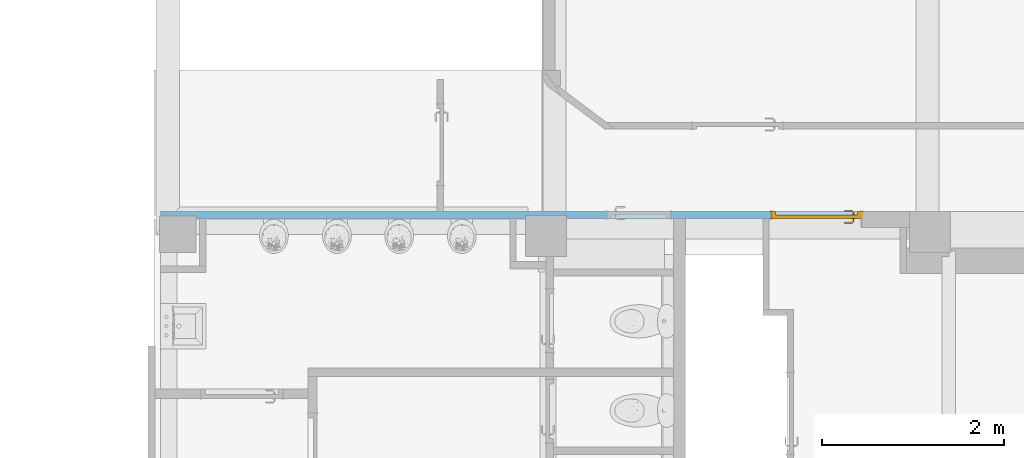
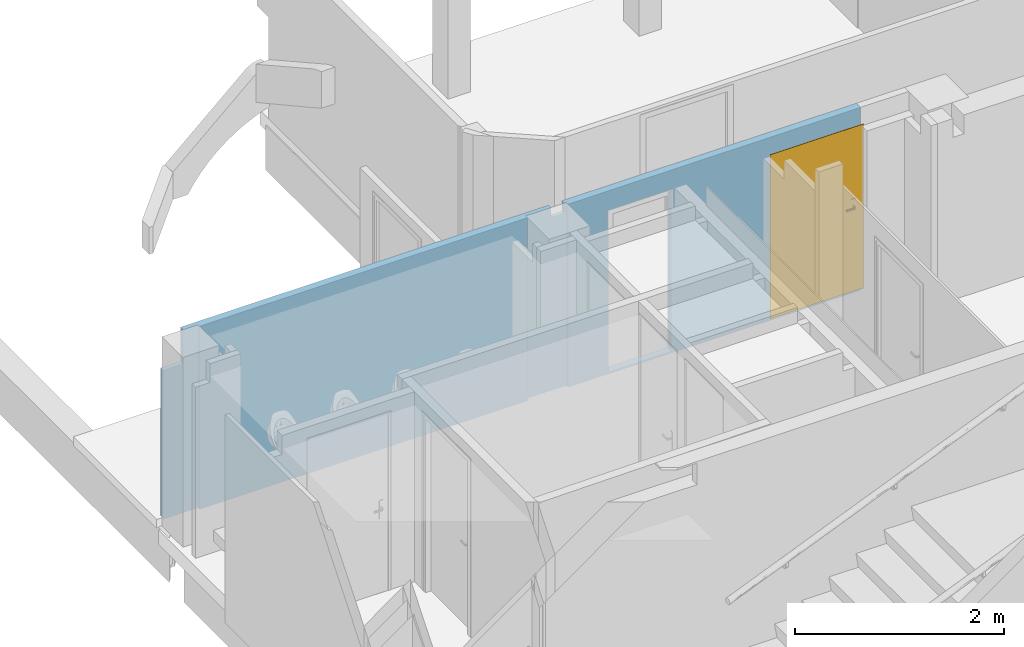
# One storey, part 18 of 32: 1 door, 2 openings, plus 1 element that does not belong to this part.
"""IFC4 building model written with IfcOpenShell, lengths in metres."""

from ifc_helpers import new_model, entity, si_unit, converted_unit, derived_unit, direction, frame, origin, place, context, subcontext, project, spatial, indexed_curve, outline, extrude, polygons, source, transform, mapped, material, material_list, layer, layer_set, constituent, constituent_set, type_object, type_shapes, element, fill, save


model = new_model("IFC4")

# Units and contexts
model_context = context("Model", 3, precision=1e-05, world=origin(), true_north=direction((6.12303176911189e-17, 1.0)))
body_context = subcontext(model_context, "Body", "Model", "MODEL_VIEW")
ifc_project = project(units=[si_unit("LENGTHUNIT", "METRE"), si_unit("AREAUNIT", "SQUARE_METRE"), si_unit("VOLUMEUNIT", "CUBIC_METRE"), converted_unit("PLANEANGLEUNIT", "DEGREE", entity("IfcRatioMeasure", 0.0174532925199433), si_unit("PLANEANGLEUNIT", "RADIAN"), dimensions=[0, 0, 0, 0, 0, 0, 0]), si_unit("MASSUNIT", "GRAM", prefix="KILO"), derived_unit("MASSDENSITYUNIT", [(si_unit("MASSUNIT", "GRAM", prefix="KILO"), 1), (si_unit("LENGTHUNIT", "METRE"), -3)]), derived_unit("MOMENTOFINERTIAUNIT", [(si_unit("LENGTHUNIT", "METRE"), 4)]), si_unit("TIMEUNIT", "SECOND"), si_unit("FREQUENCYUNIT", "HERTZ"), si_unit("THERMODYNAMICTEMPERATUREUNIT", "DEGREE_CELSIUS"), derived_unit("THERMALTRANSMITTANCEUNIT", [(si_unit("MASSUNIT", "GRAM", prefix="KILO"), 1), (si_unit("THERMODYNAMICTEMPERATUREUNIT", "KELVIN"), -1), (si_unit("TIMEUNIT", "SECOND"), -3)]), derived_unit("VOLUMETRICFLOWRATEUNIT", [(si_unit("LENGTHUNIT", "METRE"), 3), (si_unit("TIMEUNIT", "SECOND"), -1)]), si_unit("ELECTRICCURRENTUNIT", "AMPERE"), si_unit("ELECTRICVOLTAGEUNIT", "VOLT"), si_unit("POWERUNIT", "WATT"), si_unit("FORCEUNIT", "NEWTON", prefix="KILO"), si_unit("ILLUMINANCEUNIT", "LUX"), si_unit("LUMINOUSFLUXUNIT", "LUMEN"), si_unit("LUMINOUSINTENSITYUNIT", "CANDELA"), derived_unit("USERDEFINED", [(si_unit("MASSUNIT", "GRAM", prefix="KILO"), -1), (si_unit("LENGTHUNIT", "METRE"), -2), (si_unit("TIMEUNIT", "SECOND"), 3), (si_unit("LUMINOUSFLUXUNIT", "LUMEN"), 1)]), derived_unit("LINEARVELOCITYUNIT", [(si_unit("LENGTHUNIT", "METRE"), 1), (si_unit("TIMEUNIT", "SECOND"), -1)]), si_unit("PRESSUREUNIT", "PASCAL"), derived_unit("USERDEFINED", [(si_unit("LENGTHUNIT", "METRE"), -2), (si_unit("MASSUNIT", "GRAM", prefix="KILO"), 1), (si_unit("TIMEUNIT", "SECOND"), -2)]), derived_unit("LINEARFORCEUNIT", [(si_unit("MASSUNIT", "GRAM", prefix="KILO"), 1), (si_unit("LENGTHUNIT", "METRE"), 1), (si_unit("TIMEUNIT", "SECOND"), -2), (si_unit("LENGTHUNIT", "METRE"), -1)]), derived_unit("PLANARFORCEUNIT", [(si_unit("MASSUNIT", "GRAM", prefix="KILO"), 1), (si_unit("LENGTHUNIT", "METRE"), 1), (si_unit("TIMEUNIT", "SECOND"), -2), (si_unit("LENGTHUNIT", "METRE"), -2)])], contexts=[model_context])

# Site, building, storey
site_placement = place(None, origin())
site = spatial("IfcSite", under=ifc_project, at=site_placement, Name="Default", CompositionType="ELEMENT")
building_placement = place(site_placement, origin())
building = spatial("IfcBuilding", under=site, at=building_placement, Name="HOTEL CONSULAIRE BOULOGNE SUR MER", CompositionType="ELEMENT")
storey_placement = place(building_placement, frame((0.0, 0.0, -2.70343668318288)))
storey = spatial("IfcBuildingStorey", under=building, at=storey_placement, Name="SS1", CompositionType="ELEMENT", Elevation=-2.70343668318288)

# Wall, openings, door
ifc_material_1 = material(Name="Mur par défaut", Category="Divers")
ifc_layer = layer(ifc_material_1, 0.08, Name="Mur par défaut", Category="Divers")
ifc_layer_set = layer_set([ifc_layer], Name="Mur de base:Générique - Int. 80")
wall_type = type_object("IfcWallType", Name="Mur de base:Générique - Int. 80", PredefinedType="NOTDEFINED", material=ifc_layer_set)
wall_placement = place(storey_placement, frame((2.23001143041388, -15.3856940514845, 0.293990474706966), z_axis=(0.0, 0.0, 1.0), x_axis=(-1.0, 0.0, 0.0)))
wall = element("IfcWall", 1, at=wall_placement, inside=storey, type_object=wall_type, material=ifc_layer_set, Name="Mur de base:Générique - Int. 80", ObjectType="Mur de base:Générique - Int. 80", PredefinedType="NOTDEFINED", context=body_context, shape_type="Tessellation", body=[
    polygons([(1.26909234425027e-15, 0.0399999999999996, 1.92500952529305), (1.86225214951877e-16, 0.0399999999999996, 2.13944620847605), (3.23383465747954, 0.0400000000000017, 2.13944620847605), (3.23383465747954, 0.0400000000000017, 0.0), (9.98375561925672e-16, 0.0399999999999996, 0.0), (9.98375561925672e-16, 0.0399999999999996, 0.0200095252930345), (0.987999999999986, 0.0400000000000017, 0.0200095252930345), (0.987999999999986, 0.0400000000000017, 1.92500952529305), (2.08923862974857, 0.0400000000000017, 0.0200095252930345), (2.78923862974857, 0.0400000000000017, 0.0200095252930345), (2.78923862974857, 0.0400000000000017, 1.90500952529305), (2.08923862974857, 0.0400000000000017, 1.90500952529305), (4.59035227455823e-16, -0.0399999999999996, 2.13944620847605), (3.25558728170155, -0.0399999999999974, 2.13944620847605), (3.25558728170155, 0.00521575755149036, 2.13944620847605), (3.23383465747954, 0.00521575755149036, 2.13944620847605), (1.00046879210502e-15, -0.0399999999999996, 1.92500952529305), (0.987999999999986, -0.0399999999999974, 1.92500952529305), (0.987999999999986, -0.0399999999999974, 0.0200095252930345), (1.00046879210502e-15, -0.0399999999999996, 0.0200095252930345), (7.29752009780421e-16, -0.0399999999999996, 0.0), (3.4894349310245, -0.0399999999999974, 0.0), (3.4894349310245, -0.0399999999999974, 0.0200000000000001), (4.58495944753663, -0.0399999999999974, 0.0200000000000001), (4.65495944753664, -0.0399999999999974, 0.0200000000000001), (7.692, -0.0399999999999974, 0.0200000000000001), (7.692, -0.0399999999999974, 1.73944620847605), (7.47034894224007, -0.0399999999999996, 1.73944620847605), (7.47034894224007, -0.0399999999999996, 2.13944620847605), (4.65495944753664, -0.0399999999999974, 2.13944620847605), (4.58495944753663, -0.0399999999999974, 2.13944620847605), (3.40558728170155, -0.0399999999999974, 2.13944620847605), (3.40558728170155, -0.0399999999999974, 2.01944620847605), (3.25558728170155, -0.0399999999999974, 2.01944620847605), (2.78923862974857, -0.0399999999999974, 0.0200095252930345), (2.08923862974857, -0.0399999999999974, 0.0200095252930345), (2.08923862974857, -0.0399999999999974, 1.90500952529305), (2.78923862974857, -0.0399999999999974, 1.90500952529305), (7.30551957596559, 0.0400000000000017, 2.13944620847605), (7.30551957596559, 0.0400000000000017, 0.0), (3.68383465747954, 0.0399999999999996, 0.0), (3.68383465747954, 0.0399999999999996, 2.13944620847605), (3.23383465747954, 0.00521575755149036, 0.0), (3.68383465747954, 0.00521575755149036, 0.0), (7.30551957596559, 0.00957223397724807, 0.0), (7.692, 0.00957223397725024, 0.0), (7.692, 0.00492898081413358, 0.0), (3.4894349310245, 0.00492898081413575, 0.0), (7.692, 0.00957223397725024, 1.73944620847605), (7.692, 0.00492898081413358, 0.0200000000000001), (7.30551957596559, 0.00957223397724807, 2.13944620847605), (3.68383465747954, 0.00521575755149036, 2.13944620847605), (3.40558728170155, 0.00521575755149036, 2.13944620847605), (7.47034894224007, 0.00957223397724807, 2.13944620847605), (7.47034894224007, 0.00957223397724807, 1.73944620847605), (3.23383465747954, 0.00521575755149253, 0.0200000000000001), (3.25558728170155, 0.00521575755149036, 2.01944620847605), (3.40558728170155, 0.00521575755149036, 2.01944620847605), (3.4894349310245, 0.00492898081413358, 0.0200000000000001)], [[[4, 5, 6, 7, 8, 1, 2, 3], [10, 11, 12, 9]], [[39, 40, 41, 42]], [[51, 54, 55, 49, 46, 45]], [[57, 58, 53, 52, 44, 43, 56, 16, 15]], [[13, 14, 15, 16, 3, 2]], [[42, 52, 53, 32, 31, 30, 29, 54, 51, 39]], [[36, 35, 10, 9]], [[6, 20, 19, 7]], [[55, 28, 27, 49]], [[58, 57, 34, 33]], [[17, 13, 2, 1]], [[21, 20, 6, 5]], [[35, 38, 11, 10]], [[7, 19, 18, 8]], [[41, 44, 52, 42]], [[53, 58, 33, 32]], [[21, 22, 23, 24, 25, 26, 27, 28, 29, 30, 31, 32, 33, 34, 14, 13, 17, 18, 19, 20], [36, 37, 38, 35]], [[59, 48, 47, 50]], [[21, 5, 4, 43, 44, 41, 40, 45, 46, 47, 48, 22]], [[38, 37, 12, 11]], [[8, 18, 17, 1]], [[25, 24, 23, 59, 50, 26]], [[27, 26, 50, 47, 46, 49]], [[37, 36, 9, 12]], [[55, 54, 29, 28]], [[40, 39, 51, 45]], [[56, 43, 4, 3, 16]], [[15, 14, 34, 57]], [[23, 22, 48, 59]]], closed=True),
])
opening_1_placement = place(wall_placement, frame((2.78923862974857, 0.0399999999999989, 0.0200095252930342)))
element("IfcOpeningElement", 2, at=opening_1_placement, cuts=wall, Name="Int. Simple:PP (0.63m x 1.85m):1", ObjectType="Opening", PredefinedType="OPENING", context=body_context, shape_type="SweptSolid", body=[
    extrude(outline(indexed_curve([(0.0, 0.699999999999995), (0.0, 0.0), (1.88500000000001, 0.0), (1.88500000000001, 0.699999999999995), (0.0, 0.699999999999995)], self_intersect=False)), frame((0.0, 0.0, 0.0), z_axis=(0.0, -1.0, 0.0), x_axis=(0.0, 0.0, 1.0)), (0.0, 0.0, 1.0), 0.08),
])
opening_2_placement = place(wall_placement, frame((-0.0120000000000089, -0.039999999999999, 0.0200095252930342)))
opening_2 = element("IfcOpeningElement", 3, at=opening_2_placement, cuts=wall, Name="Int. Simple:0.93x1.87:1", ObjectType="Opening", PredefinedType="OPENING", context=body_context, shape_type="SweptSolid", body=[
    extrude(outline(indexed_curve([(0.0, 0.999999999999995), (0.0, -3.14457543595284e-30), (1.90500000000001, -3.14457543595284e-30), (1.90500000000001, 0.999999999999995), (0.0, 0.999999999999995)], self_intersect=False)), frame((0.0, 0.0, 0.0), z_axis=(0.0, 1.0, 0.0), x_axis=(0.0, 0.0, 1.0)), (0.0, 0.0, 1.0), 0.08),
])
ifc_material_2 = material(Name="Finition Peinture - Blanc satiné", Category="Peinture")
ifc_constituent_1 = constituent(ifc_material_2, Name="Finition Peinture - Blanc satiné", Category="Matériaux")
ifc_material_3 = material(Name="Bois - Panneau de porte", Category="Bois")
ifc_constituent_2 = constituent(ifc_material_3, Name="Bois - Panneau de porte", Category="Matériaux")
ifc_material_4 = material(Name="Bois - Cadre de porte", Category="Bois")
ifc_constituent_3 = constituent(ifc_material_4, Name="Bois - Cadre de porte", Category="Matériaux")
ifc_constituent_set = constituent_set(constituents=[ifc_constituent_1, ifc_constituent_2, ifc_constituent_3], Name="MaterialConstituentSet")
ifc_material_list = material_list([ifc_material_3, ifc_material_4, ifc_material_4, ifc_material_2])
door_type = type_object("IfcDoorType", Name="Int. Simple:0.93x1.87", OperationType="NOTDEFINED", PredefinedType="DOOR", material=ifc_material_list)
shared_shape = source(origin(), body_context, "Body", "Tessellation", [
    polygons([(0.995000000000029, -0.00500000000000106, 0.870000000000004), (0.995000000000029, -0.00500000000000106, 1.08), (0.98535276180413, -0.00500000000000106, 1.08399601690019), (0.975000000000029, -0.00500000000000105, 1.08535898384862), (0.964647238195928, -0.00500000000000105, 1.08399601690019), (0.95500000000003, -0.00500000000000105, 1.08), (0.955000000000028, -0.00500000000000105, 0.870000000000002), (0.964647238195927, -0.00500000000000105, 0.866003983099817), (0.975000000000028, -0.00500000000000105, 0.86464101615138), (0.985352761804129, -0.00500000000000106, 0.866003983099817), (0.995000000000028, -1.06594733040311e-15, 0.870000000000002), (0.985352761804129, -1.06594733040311e-15, 0.866003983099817), (0.975000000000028, -1.05748743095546e-15, 0.86464101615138), (0.964647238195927, -1.05748743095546e-15, 0.866003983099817), (0.955000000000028, -1.04902753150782e-15, 0.870000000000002), (0.955000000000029, -1.04902753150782e-15, 1.08), (0.964647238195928, -1.05748743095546e-15, 1.08399601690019), (0.975000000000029, -1.05748743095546e-15, 1.08535898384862), (0.98535276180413, -1.06594733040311e-15, 1.08399601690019), (0.995000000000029, -1.06594733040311e-15, 1.08)], [[[1, 2, 3, 4, 5, 6, 7, 8, 9, 10]], [[20, 11, 12, 13, 14, 15, 16, 17, 18, 19]], [[10, 12, 11, 1]], [[9, 13, 12, 10]], [[8, 14, 13, 9]], [[8, 7, 15, 14]], [[15, 7, 6, 16]], [[5, 17, 16, 6]], [[4, 18, 17, 5]], [[3, 19, 18, 4]], [[3, 2, 20, 19]], [[11, 20, 2, 1]]], closed=True),
    polygons([(0.95500000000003, 0.0399999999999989, 1.08), (0.955000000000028, 0.0399999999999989, 0.870000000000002), (0.964647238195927, 0.0399999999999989, 0.866003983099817), (0.975000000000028, 0.0399999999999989, 0.86464101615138), (0.985352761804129, 0.0399999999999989, 0.866003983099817), (0.995000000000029, 0.0399999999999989, 0.870000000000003), (0.995000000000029, 0.0399999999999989, 1.08), (0.98535276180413, 0.0399999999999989, 1.08399601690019), (0.975000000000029, 0.0399999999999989, 1.08535898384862), (0.964647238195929, 0.0399999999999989, 1.08399601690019), (0.95500000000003, 0.0449999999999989, 1.08), (0.964647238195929, 0.0449999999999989, 1.08399601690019), (0.975000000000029, 0.0449999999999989, 1.08535898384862), (0.98535276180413, 0.0449999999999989, 1.08399601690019), (0.995000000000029, 0.0449999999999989, 1.08), (0.995000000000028, 0.0449999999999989, 0.870000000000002), (0.985352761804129, 0.0449999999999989, 0.866003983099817), (0.975000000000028, 0.0449999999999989, 0.86464101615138), (0.964647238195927, 0.0449999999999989, 0.866003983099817), (0.955000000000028, 0.0449999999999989, 0.870000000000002)], [[[6, 7, 8, 9, 10, 1, 2, 3, 4, 5]], [[13, 14, 15, 16, 17, 18, 19, 20, 11, 12]], [[10, 12, 11, 1]], [[9, 13, 12, 10]], [[8, 14, 13, 9]], [[8, 7, 15, 14]], [[16, 15, 7, 6]], [[5, 17, 16, 6]], [[4, 18, 17, 5]], [[3, 19, 18, 4]], [[3, 2, 20, 19]], [[20, 2, 1, 11]]], closed=True),
    polygons([(0.981000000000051, -0.00500000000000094, 1.00699999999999), (0.98100000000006, -0.00500000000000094, 0.992999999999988), (0.977025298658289, -0.00500000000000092, 0.99221955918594), (0.97297470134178, -0.0050000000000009, 0.992219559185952), (0.969000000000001, -0.00500000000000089, 0.993000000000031), (0.969000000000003, -0.00500000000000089, 1.007), (0.972974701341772, -0.0050000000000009, 1.00778044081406), (0.977025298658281, -0.00500000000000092, 1.00778044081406), (0.969000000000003, -0.0276803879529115, 1.007), (0.972974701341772, -0.0293267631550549, 1.00778044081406), (0.977025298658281, -0.0310045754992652, 1.00778044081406), (0.981000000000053, -0.0326509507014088, 1.007), (0.969000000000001, -0.0276803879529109, 0.993000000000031), (0.98100000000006, -0.0326509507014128, 0.992999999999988), (0.977025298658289, -0.0310045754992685, 0.99221955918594), (0.97297470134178, -0.0293267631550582, 0.992219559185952), (0.957652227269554, -0.0390281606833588, 1.007), (0.959298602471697, -0.0430028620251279, 1.00778044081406), (0.960976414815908, -0.0470534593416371, 1.00778044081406), (0.962622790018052, -0.0510281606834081, 1.007), (0.957652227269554, -0.0390281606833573, 0.993000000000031), (0.962622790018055, -0.0510281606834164, 0.992999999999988), (0.960976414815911, -0.047053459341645, 0.99221955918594), (0.959298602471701, -0.0430028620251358, 0.992219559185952), (0.874981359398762, -0.0510281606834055, 1.007), (0.874981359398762, -0.0470534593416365, 1.00778044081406), (0.874981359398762, -0.0430028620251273, 1.00778044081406), (0.874981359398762, -0.0390281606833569, 1.00699999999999), (0.874981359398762, -0.0390281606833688, 0.993000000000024), (0.874981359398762, -0.0430028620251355, 0.992219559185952), (0.874981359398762, -0.0470534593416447, 0.99221955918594), (0.874981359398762, -0.0510281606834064, 0.992999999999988), (0.922692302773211, -0.051028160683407, 1.007), (0.917139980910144, -0.045028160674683, 1.0078786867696), (0.916316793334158, -0.039028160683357, 1.007), (0.922692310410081, -0.0510281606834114, 0.992999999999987), (0.917139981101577, -0.0450281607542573, 0.992121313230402), (0.91631679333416, -0.039028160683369, 0.993000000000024)], [[[7, 8, 1, 2, 3, 4, 5, 6]], [[17, 21, 38, 29, 28, 35]], [[1, 8, 11, 12]], [[8, 7, 10, 18, 19, 11]], [[7, 6, 9, 10]], [[13, 9, 6, 5]], [[25, 26, 27, 28, 29, 30, 31, 32]], [[4, 16, 13, 5]], [[4, 3, 15, 23, 24, 16]], [[2, 14, 15, 3]], [[12, 14, 2, 1]], [[12, 11, 19, 20]], [[10, 9, 17, 18]], [[21, 17, 9, 13]], [[13, 16, 24, 21]], [[15, 14, 22, 23]], [[20, 22, 14, 12]], [[34, 26, 33]], [[33, 26, 25]], [[33, 20, 19]], [[18, 35, 34]], [[35, 18, 17]], [[28, 27, 35]], [[34, 27, 26]], [[34, 35, 27]], [[34, 33, 19]], [[18, 34, 19]], [[37, 30, 38]], [[31, 37, 36]], [[24, 38, 21]], [[30, 29, 38]], [[31, 36, 32]], [[36, 23, 22]], [[37, 23, 36]], [[37, 24, 23]], [[37, 38, 24]], [[30, 37, 31]], [[22, 20, 33, 25, 32, 36]]], closed=True),
    polygons([(0.96900000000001, 0.0449999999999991, 0.993000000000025), (0.972974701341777, 0.0449999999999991, 0.992219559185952), (0.977025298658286, 0.0449999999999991, 0.99221955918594), (0.981000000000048, 0.044999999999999, 0.992999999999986), (0.981000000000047, 0.044999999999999, 1.007), (0.977025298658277, 0.0449999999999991, 1.00778044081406), (0.972974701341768, 0.0449999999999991, 1.00778044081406), (0.968999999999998, 0.0449999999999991, 1.007), (0.968999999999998, 0.067485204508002, 1.007), (0.968999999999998, 0.0674852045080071, 0.993000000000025), (0.981000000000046, 0.0724557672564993, 1.007), (0.977025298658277, 0.070809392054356, 1.00778044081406), (0.972974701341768, 0.0691315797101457, 1.00778044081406), (0.981000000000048, 0.0724557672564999, 0.992999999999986), (0.972974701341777, 0.0691315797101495, 0.992219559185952), (0.977025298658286, 0.0708093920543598, 0.99221955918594), (0.95751471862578, 0.0789704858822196, 1.007), (0.957514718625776, 0.0789704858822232, 0.993000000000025), (0.962485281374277, 0.0909704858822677, 1.007), (0.960838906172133, 0.0869957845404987, 1.00778044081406), (0.959161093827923, 0.0829451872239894, 1.00778044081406), (0.962485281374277, 0.0909704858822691, 0.992999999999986), (0.959161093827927, 0.0829451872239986, 0.992219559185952), (0.960838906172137, 0.0869957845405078, 0.99221955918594), (0.874954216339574, 0.0789704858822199, 0.993000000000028), (0.874954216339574, 0.0789704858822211, 1.007), (0.874954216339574, 0.0829451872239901, 1.00778044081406), (0.874954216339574, 0.0869957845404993, 1.00778044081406), (0.874954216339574, 0.0909704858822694, 1.007), (0.874954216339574, 0.0909704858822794, 0.992999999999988), (0.874954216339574, 0.086995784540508, 0.99221955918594), (0.874954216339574, 0.0829451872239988, 0.992219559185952), (0.92255479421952, 0.0909704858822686, 1.007), (0.917057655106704, 0.0849704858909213, 1.0078786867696), (0.916234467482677, 0.0789704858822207, 1.007), (0.922554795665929, 0.0909704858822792, 0.992999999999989), (0.917057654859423, 0.0849704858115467, 0.992121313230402), (0.916234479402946, 0.0789704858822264, 0.993000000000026)], [[[2, 3, 4, 5, 6, 7, 8, 1]], [[18, 17, 35, 26, 25, 38]], [[9, 10, 1, 8]], [[27, 28, 29, 30, 31, 32, 25, 26]], [[7, 13, 9, 8]], [[7, 6, 12, 20, 21, 13]], [[5, 11, 12, 6]], [[11, 5, 4, 14]], [[4, 3, 16, 14]], [[3, 2, 15, 23, 24, 16]], [[2, 1, 10, 15]], [[17, 18, 10, 9]], [[9, 13, 21, 17]], [[11, 19, 20, 12]], [[22, 19, 11, 14]], [[14, 16, 24, 22]], [[15, 10, 18, 23]], [[34, 27, 35]], [[28, 34, 33]], [[21, 35, 17]], [[27, 26, 35]], [[28, 33, 29]], [[33, 20, 19]], [[34, 20, 33]], [[34, 21, 20]], [[34, 35, 21]], [[27, 34, 28]], [[19, 22, 36, 30, 29, 33]], [[37, 31, 36]], [[36, 31, 30]], [[36, 22, 24]], [[23, 38, 37]], [[38, 23, 18]], [[25, 32, 38]], [[37, 32, 31]], [[37, 38, 32]], [[37, 36, 24]], [[23, 37, 24]]], closed=True),
    polygons([(1.03500000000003, 0.0400000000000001, 1.87), (1.03500000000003, 0.0400000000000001, 0.0), (0.105000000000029, 0.0400000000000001, 0.0), (0.105000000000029, 0.0400000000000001, 1.87), (1.03500000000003, 6.76791955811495e-17, 1.87), (0.105000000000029, 6.76791955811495e-17, 1.87), (0.105000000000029, 6.76791955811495e-17, 0.0), (1.03500000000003, 6.76791955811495e-17, 0.0)], [[[4, 1, 2, 3]], [[5, 6, 7, 8]], [[5, 1, 4, 6]], [[6, 4, 3, 7]], [[7, 3, 2, 8]], [[8, 2, 1, 5]]], closed=True),
    polygons([(1.07000000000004, -8.45989944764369e-18, 0.0), (1.03500000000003, -8.45989944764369e-18, 0.0), (1.03500000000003, 0.0400000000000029, 0.0), (1.02000000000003, 0.0400000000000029, 0.0), (1.02000000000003, 0.080000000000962, 0.0), (1.07000000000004, 0.080000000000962, 0.0), (1.07000000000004, 0.080000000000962, 1.90500000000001), (1.07000000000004, -8.45989944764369e-18, 1.90500000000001), (1.02000000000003, 0.080000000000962, 1.855), (0.120000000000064, 0.080000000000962, 1.855), (0.120000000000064, 0.080000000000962, 1.25995961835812e-24), (0.0700000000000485, 0.080000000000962, 4.29869139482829e-24), (0.0700000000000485, 0.080000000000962, 1.90500000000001), (1.02000000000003, 0.0400000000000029, 1.855), (1.03500000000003, 0.0400000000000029, 1.87), (0.105000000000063, 0.0400000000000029, 1.87), (0.105000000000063, 0.0400000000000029, 3.83827131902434e-24), (0.120000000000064, 0.0400000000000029, -2.04418422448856e-24), (0.120000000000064, 0.0400000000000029, 1.855), (1.03500000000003, -8.45989944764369e-18, 1.87), (0.0700000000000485, -8.45989944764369e-18, 1.90500000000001), (0.0700000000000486, -8.45989944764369e-18, 7.98169345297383e-25), (0.105000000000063, -8.45989944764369e-18, 5.39302858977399e-25), (0.105000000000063, -8.45989944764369e-18, 1.87)], [[[5, 6, 1, 2, 3, 4]], [[17, 23, 22, 12, 11, 18]], [[10, 9, 14, 19]], [[16, 15, 20, 24]], [[7, 8, 1, 6]], [[18, 11, 10, 19]], [[17, 16, 24, 23]], [[9, 10, 11, 12, 13, 7, 6, 5]], [[14, 9, 5, 4]], [[20, 15, 3, 2]], [[22, 21, 13, 12]], [[19, 14, 4, 3, 15, 16, 17, 18]], [[24, 20, 2, 1, 8, 21, 22, 23]], [[13, 21, 8, 7]]], closed=True),
    polygons([(1.05500000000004, 0.080000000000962, 0.0), (1.05500000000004, 0.085000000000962, 0.0), (1.08500000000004, 0.085000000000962, 0.0), (1.08500000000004, 0.080000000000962, 0.0), (1.08500000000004, 0.080000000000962, 1.92000000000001), (0.0550000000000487, 0.080000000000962, 1.92000000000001), (0.0550000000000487, 0.080000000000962, 0.0), (0.0850000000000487, 0.080000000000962, -4.03399441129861e-24), (0.0850000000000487, 0.080000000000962, 1.89000000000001), (1.05500000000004, 0.080000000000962, 1.89000000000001), (1.08500000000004, 0.085000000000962, 1.92000000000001), (1.05500000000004, 0.085000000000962, 1.89000000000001), (0.0850000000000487, 0.085000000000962, 1.89000000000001), (0.0850000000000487, 0.085000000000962, 1.34466439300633e-24), (0.0550000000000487, 0.085000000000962, 1.34466438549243e-24), (0.0550000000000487, 0.085000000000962, 1.92000000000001)], [[[2, 3, 4, 1]], [[7, 15, 14, 8]], [[13, 12, 10, 9]], [[9, 10, 1, 4, 5, 6, 7, 8]], [[11, 5, 4, 3]], [[8, 14, 13, 9]], [[12, 13, 14, 15, 16, 11, 3, 2]], [[10, 12, 2, 1]], [[7, 6, 16, 15]], [[6, 5, 11, 16]]], closed=True),
    polygons([(1.05500000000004, -0.00499999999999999, 0.0), (1.05500000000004, -8.45989944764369e-18, 0.0), (1.08500000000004, -8.45989944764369e-18, 0.0), (1.08500000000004, -0.00499999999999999, 0.0), (0.0850000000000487, -0.00499999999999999, 0.0), (0.0550000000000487, -0.00499999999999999, 0.0), (0.0550000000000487, -8.45989944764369e-18, 0.0), (0.0850000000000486, -8.45989944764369e-18, 0.0), (1.08500000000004, -0.00499999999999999, 1.92000000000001), (0.0550000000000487, -0.00499999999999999, 1.92000000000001), (0.0850000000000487, -0.00499999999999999, 1.89000000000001), (1.05500000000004, -0.00499999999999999, 1.89000000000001), (1.08500000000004, -8.45989944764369e-18, 1.92000000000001), (1.05500000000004, -8.45989944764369e-18, 1.89000000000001), (0.0850000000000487, -8.45989944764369e-18, 1.89000000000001), (0.0550000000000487, -8.45989944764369e-18, 1.92000000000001)], [[[2, 3, 4, 1]], [[5, 6, 7, 8]], [[15, 14, 12, 11]], [[11, 12, 1, 4, 9, 10, 6, 5]], [[13, 9, 4, 3]], [[5, 8, 15, 11]], [[14, 15, 8, 7, 16, 13, 3, 2]], [[12, 14, 2, 1]], [[7, 6, 10, 16]], [[16, 10, 9, 13]]], closed=True),
])
type_shapes(door_type, [shared_shape])
door_placement = place(opening_2_placement, frame((1.07000000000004, 0.0799999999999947, 0.0), z_axis=(0.0, 0.0, 1.0), x_axis=(-1.0, 0.0, 0.0)))
door = element("IfcDoor", 4, at=door_placement, inside=storey, type_object=door_type, material=ifc_constituent_set, Name="Int. Simple:0.93x1.87", ObjectType="Int. Simple:0.93x1.87", OperationType="NOTDEFINED", OverallHeight=1.90500000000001, OverallWidth=0.999999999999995, PredefinedType="DOOR", context=body_context, shape_type="MappedRepresentation", body=[
    mapped(shared_shape, transform((0.0, 0.0, 0.0), scale=1.0)),
])
fill(opening_2, door)

save(model, "model.ifc")
